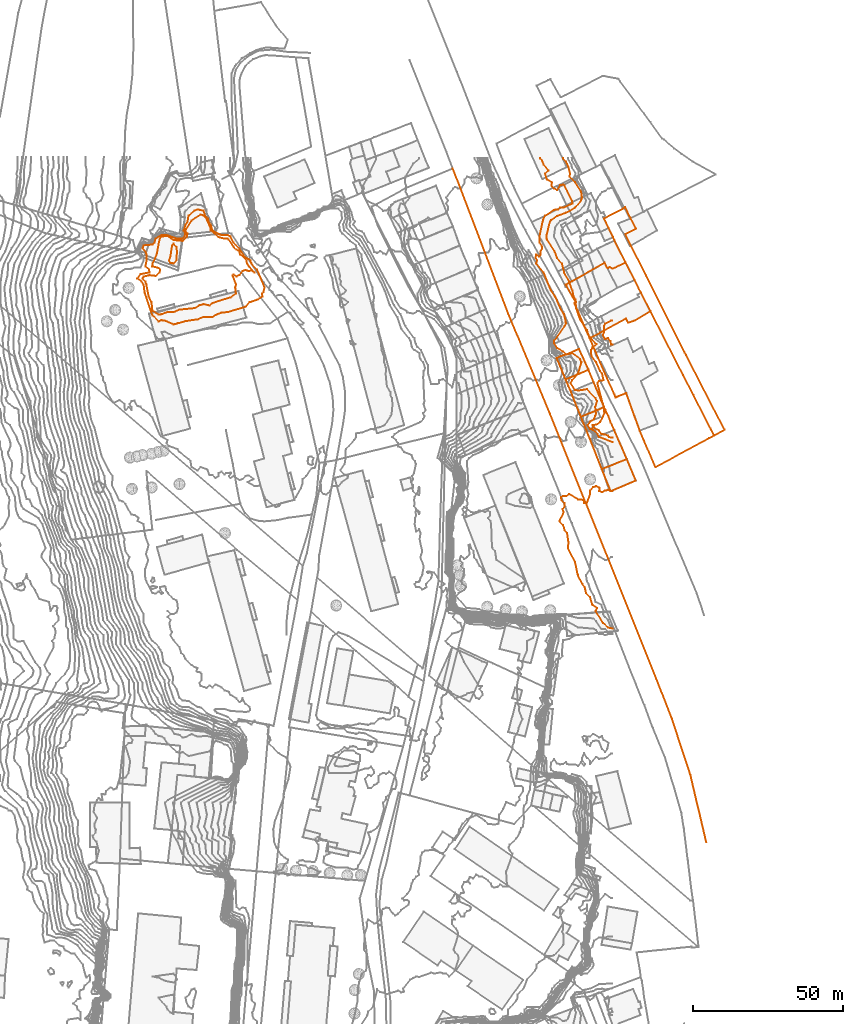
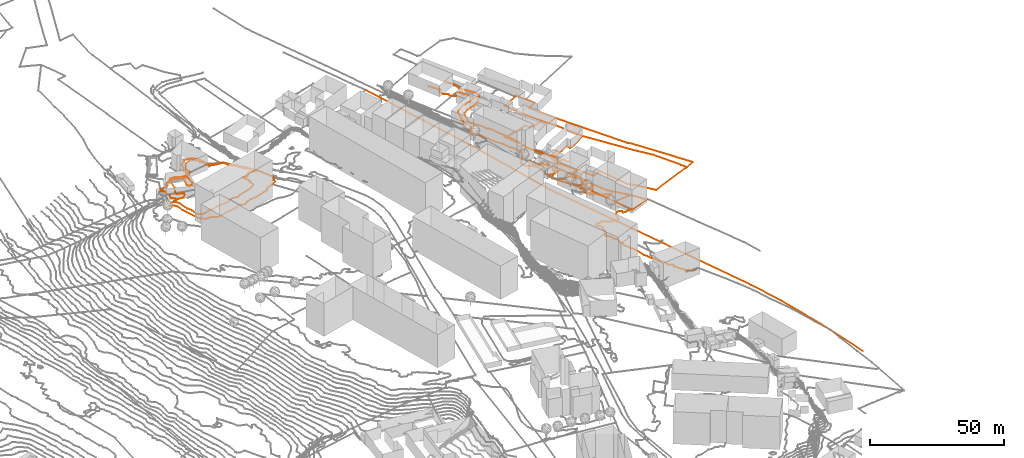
# Not in any storey, part 384 of 419: 15 proxies.
"""IFC2X3 model written with IfcOpenShell, lengths in metres."""

from ifc_helpers import new_model, entity, si_unit, frame, origin_with_axes, place, context, subcontext, project, element, save


model = new_model("IFC2X3")

# Units and contexts
model_context = context("Model", 3, precision=1e-05, world=origin_with_axes())
body_context = subcontext(model_context, "Body", "Model", "MODEL_VIEW")
ifc_project = project(units=[si_unit("AREAUNIT", "SQUARE_METRE"), si_unit("LENGTHUNIT", "METRE")], contexts=[model_context])

# Proxies
proxy_1_placement = place(None, frame((923.2920204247, 1028.5976909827, 93.5), z_axis=(0.0, 0.0, 1.0), x_axis=(1.0, 0.0, 0.0)))
element("IfcBuildingElementProxy", 1, at=proxy_1_placement, Name="Route 215", ObjectType="NOTDEFINED", context=body_context, shape_type="GeometricCurveSet", body=[
    entity("IfcGeometricCurveSet", [entity("IfcPolyline", [entity("IfcCartesianPoint", [84.6000000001, -225.0, -12.2]), entity("IfcCartesianPoint", [79.3, -202.4000000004, -11.5]), entity("IfcCartesianPoint", [73.1000000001, -183.6000000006, -10.2]), entity("IfcCartesianPoint", [67.9, -170.2000000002, -9.3]), entity("IfcCartesianPoint", [32.4, -81.7999999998, -7.2]), entity("IfcCartesianPoint", [18.5, -48.4000000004, -2.9]), entity("IfcCartesianPoint", [0.0, 0.0, 0.0])])]),
])
proxy_2_placement = place(None, frame((966.0220204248, 945.7376909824, 85.1915095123), z_axis=(0.0, 0.0, 1.0), x_axis=(1.0, 0.0, 0.0)))
element("IfcBuildingElementProxy", 2, at=proxy_2_placement, Name="Cadastre 216", ObjectType="NOTDEFINED", context=body_context, shape_type="GeometricCurveSet", body=[
    entity("IfcGeometricCurveSet", [entity("IfcPolyline", [entity("IfcCartesianPoint", [0.0, 0.0, 0.0]), entity("IfcCartesianPoint", [5.5699999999, 2.1800000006, -2.5723105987]), entity("IfcCartesianPoint", [7.72, 3.2400000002, -3.3080676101]), entity("IfcCartesianPoint", [8.21, 2.2300000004, -3.3728630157]), entity("IfcCartesianPoint", [9.26, 0.0, -3.3658886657]), entity("IfcCartesianPoint", [9.97, -1.8899999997, -3.3615076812]), entity("IfcCartesianPoint", [11.12, -4.4299999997, -3.3106120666]), entity("IfcCartesianPoint", [15.3199999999, -14.1799999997, -0.9787113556]), entity("IfcCartesianPoint", [7.0, -17.4399999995, 0.9192987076]), entity("IfcCartesianPoint", [3.0399999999, -7.5499999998, 1.1341150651]), entity("IfcCartesianPoint", [1.9099999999, -4.5599999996, 1.3429384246]), entity("IfcCartesianPoint", [0.96, -2.3399999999, -0.233708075]), entity("IfcCartesianPoint", [0.0, 0.0, 0.0])])]),
])
proxy_3_placement = place(None, frame((960.9620204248, 958.1776909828, 84.4061030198), z_axis=(0.0, 0.0, 1.0), x_axis=(1.0, 0.0, 0.0)))
element("IfcBuildingElementProxy", 3, at=proxy_3_placement, Name="Cadastre 217", ObjectType="NOTDEFINED", context=body_context, shape_type="GeometricCurveSet", body=[
    entity("IfcGeometricCurveSet", [entity("IfcPolyline", [entity("IfcCartesianPoint", [0.0, 0.0, 0.0]), entity("IfcCartesianPoint", [4.3200000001, 1.7800000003, -2.0234875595]), entity("IfcCartesianPoint", [7.59, 3.2400000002, -2.2358246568]), entity("IfcCartesianPoint", [9.3100000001, -0.9199999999, -2.3144393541]), entity("IfcCartesianPoint", [12.78, -9.2000000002, -2.5226611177]), entity("IfcCartesianPoint", [10.63, -10.2599999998, -1.7869041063]), entity("IfcCartesianPoint", [5.0600000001, -12.4400000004, 0.7854064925]), entity("IfcCartesianPoint", [1.7100000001, -4.0800000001, -0.2434632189]), entity("IfcCartesianPoint", [0.0, 0.0, 0.0])])]),
])
proxy_4_placement = place(None, frame((957.9820204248, 965.2876909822, 87.2904030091), z_axis=(0.0, 0.0, 1.0), x_axis=(1.0, 0.0, 0.0)))
element("IfcBuildingElementProxy", 4, at=proxy_4_placement, Name="Cadastre 218", ObjectType="NOTDEFINED", context=body_context, shape_type="GeometricCurveSet", body=[
    entity("IfcGeometricCurveSet", [entity("IfcPolyline", [entity("IfcCartesianPoint", [0.0, 0.0, 0.0]), entity("IfcCartesianPoint", [1.3199999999, 0.6200000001, -2.0114830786]), entity("IfcCartesianPoint", [4.37, 1.7000000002, -4.021207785]), entity("IfcCartesianPoint", [7.4400000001, 3.0800000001, -4.9458076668]), entity("IfcCartesianPoint", [10.5699999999, -3.8699999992, -5.1201246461]), entity("IfcCartesianPoint", [7.3, -5.3299999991, -4.9077875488]), entity("IfcCartesianPoint", [2.98, -7.1099999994, -2.8842999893]), entity("IfcCartesianPoint", [0.0, 0.0, 0.0])])]),
])
proxy_5_placement = place(None, frame((960.8920204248, 989.8076909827, 82.4106987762), z_axis=(0.0, 0.0, 1.0), x_axis=(1.0, 0.0, 0.0)))
element("IfcBuildingElementProxy", 5, at=proxy_5_placement, Name="Cadastre 221", ObjectType="NOTDEFINED", context=body_context, shape_type="GeometricCurveSet", body=[
    entity("IfcGeometricCurveSet", [entity("IfcPolyline", [entity("IfcCartesianPoint", [28.33, -8.8399999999, -4.0308960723]), entity("IfcCartesianPoint", [23.02, -12.0200000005, -4.4882997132]), entity("IfcCartesianPoint", [20.9299999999, -12.7400000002, -4.6034993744]), entity("IfcCartesianPoint", [20.24, -11.2800000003, -4.3738014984]), entity("IfcCartesianPoint", [11.61, -16.0300000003, -3.9011919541]), entity("IfcCartesianPoint", [8.09, -17.9100000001, -0.4337501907]), entity("IfcCartesianPoint", [6.22, -13.5999999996, -0.4715315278]), entity("IfcCartesianPoint", [4.08, -8.7300000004, -0.9011527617]), entity("IfcCartesianPoint", [2.96, -6.1399999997, -0.4580093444]), entity("IfcCartesianPoint", [3.45, -5.8799999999, -0.8406753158]), entity("IfcCartesianPoint", [0.4, -0.5200000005, -0.0590804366]), entity("IfcCartesianPoint", [0.0, 0.0, 0.0]), entity("IfcCartesianPoint", [2.15, 1.1100000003, -0.8434570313]), entity("IfcCartesianPoint", [13.0599999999, 7.29, -3.7371000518]), entity("IfcCartesianPoint", [14.0, 5.4500000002, -3.7948980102]), entity("IfcCartesianPoint", [14.75, 5.7999999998, -3.8627961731]), entity("IfcCartesianPoint", [15.6599999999, 5.3099999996, -3.8550966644]), entity("IfcCartesianPoint", [20.0399999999, 7.3300000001, -3.8855010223]), entity("IfcCartesianPoint", [23.1, 1.5199999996, -3.7807015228]), entity("IfcCartesianPoint", [25.1799999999, -2.7199999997, -3.8786000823]), entity("IfcCartesianPoint", [28.33, -8.8399999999, -4.0308960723])])]),
])
proxy_6_placement = place(None, frame((973.7320204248, 1011.9076909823, 78.7609409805), z_axis=(0.0, 0.0, 1.0), x_axis=(1.0, 0.0, 0.0)))
element("IfcBuildingElementProxy", 6, at=proxy_6_placement, Name="Cadastre 223", ObjectType="NOTDEFINED", context=body_context, shape_type="GeometricCurveSet", body=[
    entity("IfcGeometricCurveSet", [entity("IfcPolyline", [entity("IfcCartesianPoint", [27.4, -45.6099999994, 1.113055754]), entity("IfcCartesianPoint", [40.24, -70.54, 3.119356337]), entity("IfcCartesianPoint", [36.77, -72.4699999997, 3.1194563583]), entity("IfcCartesianPoint", [35.5699999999, -70.0800000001, 3.1018558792]), entity("IfcCartesianPoint", [29.85, -58.9799999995, 3.0066596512]), entity("IfcCartesianPoint", [26.41, -52.2599999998, 1.9565558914]), entity("IfcCartesianPoint", [15.49, -30.9399999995, -0.3811382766]), entity("IfcCartesianPoint", [12.34, -24.8199999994, -0.2288422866]), entity("IfcCartesianPoint", [10.26, -20.5800000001, -0.1309437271]), entity("IfcCartesianPoint", [7.2, -14.7699999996, -0.2357432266]), entity("IfcCartesianPoint", [3.53, -7.4299999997, -0.3149436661]), entity("IfcCartesianPoint", [3.02, -6.2699999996, -0.36574048]), entity("IfcCartesianPoint", [1.55, -3.1799999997, -0.2744698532]), entity("IfcCartesianPoint", [0.0, 0.0, 0.0]), entity("IfcCartesianPoint", [6.3199999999, 3.2600000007, -0.0409397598]), entity("IfcCartesianPoint", [7.11, 3.7800000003, -0.0322401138]), entity("IfcCartesianPoint", [8.87, 0.0300000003, -0.1439429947]), entity("IfcCartesianPoint", [10.71, -3.4799999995, -0.3209385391]), entity("IfcCartesianPoint", [7.12, -5.25, -0.3705434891]), entity("IfcCartesianPoint", [14.09, -19.0999999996, -0.1591421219]), entity("IfcCartesianPoint", [26.97, -44.7199999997, 0.7551584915]), entity("IfcCartesianPoint", [27.4, -45.6099999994, 1.113055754])])]),
])
proxy_7_placement = place(None, frame((968.9820204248, 971.8976909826, 81.9769485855), z_axis=(0.0, 0.0, 1.0), x_axis=(1.0, 0.0, 0.0)))
element("IfcBuildingElementProxy", 7, at=proxy_7_placement, Name="Cadastre 224", ObjectType="NOTDEFINED", context=body_context, shape_type="GeometricCurveSet", body=[
    entity("IfcGeometricCurveSet", [entity("IfcPolyline", [entity("IfcCartesianPoint", [41.52, -32.46, -0.0965512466]), entity("IfcCartesianPoint", [39.8199999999, -33.3399999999, 0.4406481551]), entity("IfcCartesianPoint", [21.92, -42.9799999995, 2.7586520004]), entity("IfcCartesianPoint", [18.08, -34.0899999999, 0.9619520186]), entity("IfcCartesianPoint", [16.6900000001, -30.8300000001, -0.0936506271]), entity("IfcCartesianPoint", [12.1800000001, -18.3200000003, -0.2415454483]), entity("IfcCartesianPoint", [11.85, -18.4399999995, -0.2451453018]), entity("IfcCartesianPoint", [9.36, -19.4100000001, -0.174150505]), entity("IfcCartesianPoint", [8.61, -19.7199999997, -0.1691498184]), entity("IfcCartesianPoint", [8.25, -18.8300000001, -0.220547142]), entity("IfcCartesianPoint", [2.05, -4.7999999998, -1.4141483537]), entity("IfcCartesianPoint", [0.0, 0.0, 0.0]), entity("IfcCartesianPoint", [3.52, 1.8799999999, -3.4674417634]), entity("IfcCartesianPoint", [12.15, 6.6299999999, -3.9400513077]), entity("IfcCartesianPoint", [12.84, 5.1699999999, -4.1697491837]), entity("IfcCartesianPoint", [14.9300000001, 5.8899999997, -4.0545495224]), entity("IfcCartesianPoint", [20.24, 9.0700000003, -3.5971458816]), entity("IfcCartesianPoint", [31.16, -12.25, -1.2594517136]), entity("IfcCartesianPoint", [34.6, -18.9699999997, -0.2093479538]), entity("IfcCartesianPoint", [40.3199999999, -30.0700000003, -0.1141517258]), entity("IfcCartesianPoint", [41.52, -32.46, -0.0965512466])])]),
])
proxy_8_placement = place(None, frame((973.0220204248, 928.2976909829, 86.1108082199), z_axis=(0.0, 0.0, 1.0), x_axis=(1.0, 0.0, 0.0)))
element("IfcBuildingElementProxy", 8, at=proxy_8_placement, Name="Cadastre 225", ObjectType="NOTDEFINED", context=body_context, shape_type="GeometricCurveSet", body=[
    entity("IfcGeometricCurveSet", [entity("IfcPolyline", [entity("IfcCartesianPoint", [0.0, 0.0, 0.0]), entity("IfcCartesianPoint", [8.3199999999, 3.2599999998, -1.8980100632]), entity("IfcCartesianPoint", [11.33, -3.8399999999, -0.7504056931]), entity("IfcCartesianPoint", [2.97, -7.4500000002, -0.1328087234]), entity("IfcCartesianPoint", [0.0, 0.0, 0.0])])]),
])
proxy_9_placement = place(None, frame((828.5682057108, 997.8976909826, 102.0), z_axis=(0.0, 0.0, 1.0), x_axis=(1.0, 0.0, 0.0)))
element("IfcBuildingElementProxy", 9, at=proxy_9_placement, Name="Contour 102.0 m", ObjectType="NOTDEFINED", context=body_context, shape_type="GeometricCurveSet", body=[
    entity("IfcGeometricCurveSet", [entity("IfcPolyline", [entity("IfcCartesianPoint", [1.6190372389, -1.0, 0.0]), entity("IfcCartesianPoint", [0.5238147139, -0.9166507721, 0.0]), entity("IfcCartesianPoint", [0.0, 0.0, 0.0]), entity("IfcCartesianPoint", [0.420370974, 1.0, 0.0]), entity("IfcCartesianPoint", [1.0952588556, 5.0, 0.0]), entity("IfcCartesianPoint", [1.5238147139, 5.5999999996, 0.0]), entity("IfcCartesianPoint", [2.5238147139, 4.4166825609, 0.0]), entity("IfcCartesianPoint", [2.6977320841, 3.0, 0.0]), entity("IfcCartesianPoint", [2.5238147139, 0.142833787, 0.0]), entity("IfcCartesianPoint", [1.6190372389, -1.0, 0.0])])]),
])
proxy_10_placement = place(None, frame((819.7523964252, 991.8976909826, 101.0), z_axis=(0.0, 0.0, 1.0), x_axis=(1.0, 0.0, 0.0)))
element("IfcBuildingElementProxy", 10, at=proxy_10_placement, Name="Contour 101.0 m", ObjectType="NOTDEFINED", context=body_context, shape_type="GeometricCurveSet", body=[
    entity("IfcGeometricCurveSet", [entity("IfcPolyline", [entity("IfcCartesianPoint", [6.3850880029, -12.0, 0.0]), entity("IfcCartesianPoint", [5.3396239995, -12.0909106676, 0.0]), entity("IfcCartesianPoint", [3.3396239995, -10.8648576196, 0.0]), entity("IfcCartesianPoint", [3.0062934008, -8.0, 0.0]), entity("IfcCartesianPoint", [2.0676269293, -6.0, 0.0]), entity("IfcCartesianPoint", [1.2754038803, -2.0, 0.0]), entity("IfcCartesianPoint", [0.9396199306, -1.0, 0.0]), entity("IfcCartesianPoint", [0.0, 0.0, 0.0]), entity("IfcCartesianPoint", [0.3396239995, 0.5999949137, 0.0]), entity("IfcCartesianPoint", [2.3396239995, 1.0291250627, 0.0]), entity("IfcCartesianPoint", [4.3396239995, 0.80768215, 0.0]), entity("IfcCartesianPoint", [5.708038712, 2.0, 0.0]), entity("IfcCartesianPoint", [5.8729641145, 3.0, 0.0]), entity("IfcCartesianPoint", [5.3396239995, 3.4444538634, 0.0]), entity("IfcCartesianPoint", [3.2611911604, 4.0, 0.0]), entity("IfcCartesianPoint", [3.3396239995, 5.0000111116, 0.0]), entity("IfcCartesianPoint", [4.7285105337, 8.0, 0.0]), entity("IfcCartesianPoint", [5.6896278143, 13.0, 0.0]), entity("IfcCartesianPoint", [6.2748784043, 14.0, 0.0]), entity("IfcCartesianPoint", [8.3396239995, 14.0540541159, 0.0]), entity("IfcCartesianPoint", [10.3396239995, 12.7401569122, 0.0]), entity("IfcCartesianPoint", [13.3396239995, 12.5000008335, 0.0]), entity("IfcCartesianPoint", [14.8349501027, 14.0, 0.0]), entity("IfcCartesianPoint", [14.959624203, 15.0, 0.0]), entity("IfcCartesianPoint", [14.2443872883, 16.0, 0.0]), entity("IfcCartesianPoint", [16.3396239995, 19.333333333, 0.0]), entity("IfcCartesianPoint", [19.3396239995, 21.2539720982, 0.0]), entity("IfcCartesianPoint", [20.3396239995, 20.9841237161, 0.0]), entity("IfcCartesianPoint", [21.3396239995, 19.949154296, 0.0]), entity("IfcCartesianPoint", [22.6283941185, 17.0, 0.0]), entity("IfcCartesianPoint", [22.6893176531, 16.0, 0.0]), entity("IfcCartesianPoint", [25.3396239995, 13.7169776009, 0.0]), entity("IfcCartesianPoint", [27.3396239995, 13.2068962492, 0.0]), entity("IfcCartesianPoint", [28.3396239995, 13.278482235, 0.0]), entity("IfcCartesianPoint", [28.7709971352, 13.0, 0.0]), entity("IfcCartesianPoint", [30.3396239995, 10.6231866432, 0.0]), entity("IfcCartesianPoint", [31.3396239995, 9.5277836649, 0.0]), entity("IfcCartesianPoint", [32.3396239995, 9.0901643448, 0.0]), entity("IfcCartesianPoint", [32.5455053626, 8.0, 0.0]), entity("IfcCartesianPoint", [34.6439660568, 6.0, 0.0]), entity("IfcCartesianPoint", [34.885053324, 5.0, 0.0]), entity("IfcCartesianPoint", [35.5301053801, 4.0, 0.0]), entity("IfcCartesianPoint", [37.3396239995, 1.9999947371, 0.0]), entity("IfcCartesianPoint", [36.3396239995, 2.5714441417, 0.0]), entity("IfcCartesianPoint", [35.3396239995, 2.4285558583, 0.0]), entity("IfcCartesianPoint", [34.3396239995, 2.7499523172, 0.0]), entity("IfcCartesianPoint", [33.3396239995, 2.4999500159, 0.0]), entity("IfcCartesianPoint", [32.3396239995, 1.1666878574, 0.0]), entity("IfcCartesianPoint", [31.3396239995, 0.6667090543, 0.0]), entity("IfcCartesianPoint", [30.3396239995, 1.1999694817, 0.0]), entity("IfcCartesianPoint", [30.0539564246, 1.0, 0.0]), entity("IfcCartesianPoint", [31.2146001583, -2.0, 0.0]), entity("IfcCartesianPoint", [30.9396087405, -3.0, 0.0]), entity("IfcCartesianPoint", [31.1858004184, -5.0, 0.0]), entity("IfcCartesianPoint", [29.3396239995, -6.3333192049, 0.0]), entity("IfcCartesianPoint", [23.3396239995, -8.2272853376, 0.0]), entity("IfcCartesianPoint", [22.3396239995, -9.0384694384, 0.0]), entity("IfcCartesianPoint", [20.3396239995, -8.6250119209, 0.0]), entity("IfcCartesianPoint", [19.039631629, -9.0, 0.0]), entity("IfcCartesianPoint", [17.3396239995, -9.9565130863, 0.0]), entity("IfcCartesianPoint", [12.3396239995, -10.434784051, 0.0]), entity("IfcCartesianPoint", [10.3396239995, -11.2608637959, 0.0]), entity("IfcCartesianPoint", [8.3396239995, -11.2105284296, 0.0]), entity("IfcCartesianPoint", [6.3850880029, -12.0, 0.0])])]),
])
proxy_11_placement = place(None, frame((818.008682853, 991.8976909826, 100.0), z_axis=(0.0, 0.0, 1.0), x_axis=(1.0, 0.0, 0.0)))
element("IfcBuildingElementProxy", 11, at=proxy_11_placement, Name="Contour 100.0 m", ObjectType="NOTDEFINED", context=body_context, shape_type="GeometricCurveSet", body=[
    entity("IfcGeometricCurveSet", [entity("IfcPolyline", [entity("IfcCartesianPoint", [13.638902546, -15.0, 0.0]), entity("IfcCartesianPoint", [12.0833375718, -15.3599853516, 0.0]), entity("IfcCartesianPoint", [9.0833375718, -14.1111079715, 0.0]), entity("IfcCartesianPoint", [8.0833375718, -14.0000027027, 0.0]), entity("IfcCartesianPoint", [7.0833375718, -14.3409106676, 0.0]), entity("IfcCartesianPoint", [5.0833375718, -12.3764709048, 0.0]), entity("IfcCartesianPoint", [2.5184526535, -5.0, 0.0]), entity("IfcCartesianPoint", [2.1016831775, -2.0, 0.0]), entity("IfcCartesianPoint", [1.4043258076, -1.0, 0.0]), entity("IfcCartesianPoint", [0.0, 0.0, 0.0]), entity("IfcCartesianPoint", [1.0833375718, 1.3902436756, 0.0]), entity("IfcCartesianPoint", [4.0833264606, 2.0, 0.0]), entity("IfcCartesianPoint", [3.950002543, 3.0, 0.0]), entity("IfcCartesianPoint", [2.6962411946, 4.0, 0.0]), entity("IfcCartesianPoint", [3.1123184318, 6.0, 0.0]), entity("IfcCartesianPoint", [3.1203688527, 8.0, 0.0]), entity("IfcCartesianPoint", [2.7284984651, 9.0, 0.0]), entity("IfcCartesianPoint", [1.7944528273, 10.0, 0.0]), entity("IfcCartesianPoint", [2.1309669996, 11.0, 0.0]), entity("IfcCartesianPoint", [5.0833375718, 11.2663757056, 0.0]), entity("IfcCartesianPoint", [5.7662647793, 12.0, 0.0]), entity("IfcCartesianPoint", [6.0833375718, 13.2475879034, 0.0]), entity("IfcCartesianPoint", [8.0833375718, 14.459915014, 0.0]), entity("IfcCartesianPoint", [10.0833375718, 14.3543542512, 0.0]), entity("IfcCartesianPoint", [13.0833375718, 13.238094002, 0.0]), entity("IfcCartesianPoint", [15.0833375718, 13.2816915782, 0.0]), entity("IfcCartesianPoint", [15.7679000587, 14.0, 0.0]), entity("IfcCartesianPoint", [16.0333378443, 15.0, 0.0]), entity("IfcCartesianPoint", [15.5119100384, 16.0, 0.0]), entity("IfcCartesianPoint", [16.0833375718, 17.864404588, 0.0]), entity("IfcCartesianPoint", [16.766506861, 19.0, 0.0]), entity("IfcCartesianPoint", [17.0833375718, 20.9090951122, 0.0]), entity("IfcCartesianPoint", [19.0833375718, 22.6052642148, 0.0]), entity("IfcCartesianPoint", [20.0833375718, 22.9807652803, 0.0]), entity("IfcCartesianPoint", [22.0833375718, 22.5507247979, 0.0]), entity("IfcCartesianPoint", [22.6797232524, 21.0, 0.0]), entity("IfcCartesianPoint", [23.5611709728, 20.0, 0.0]), entity("IfcCartesianPoint", [23.7924283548, 19.0, 0.0]), entity("IfcCartesianPoint", [24.4962733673, 18.0, 0.0]), entity("IfcCartesianPoint", [25.0833375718, 15.9634161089, 0.0]), entity("IfcCartesianPoint", [27.0833375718, 14.7657639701, 0.0]), entity("IfcCartesianPoint", [28.0833375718, 14.4653467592, 0.0]), entity("IfcCartesianPoint", [30.0833375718, 14.4257419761, 0.0]), entity("IfcCartesianPoint", [31.0833375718, 13.9594609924, 0.0]), entity("IfcCartesianPoint", [32.1178191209, 12.0, 0.0]), entity("IfcCartesianPoint", [34.0833375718, 9.9098356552, 0.0]), entity("IfcCartesianPoint", [36.0491487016, 7.0, 0.0]), entity("IfcCartesianPoint", [37.7294908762, 6.0, 0.0]), entity("IfcCartesianPoint", [38.0833375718, 4.8800048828, 0.0]), entity("IfcCartesianPoint", [39.9387562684, 3.0, 0.0]), entity("IfcCartesianPoint", [42.518819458, -3.0, 0.0]), entity("IfcCartesianPoint", [42.0833375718, -4.5714441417, 0.0]), entity("IfcCartesianPoint", [41.5833431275, -5.0, 0.0]), entity("IfcCartesianPoint", [41.7976699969, -6.0, 0.0]), entity("IfcCartesianPoint", [40.0833375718, -7.1000228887, 0.0]), entity("IfcCartesianPoint", [37.4166285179, -8.0, 0.0]), entity("IfcCartesianPoint", [36.0833375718, -9.5000083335, 0.0]), entity("IfcCartesianPoint", [30.0833375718, -11.2727146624, 0.0]), entity("IfcCartesianPoint", [28.0833375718, -11.4782565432, 0.0]), entity("IfcCartesianPoint", [26.0833375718, -12.2000000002, 0.0]), entity("IfcCartesianPoint", [25.0833375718, -13.0000038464, 0.0]), entity("IfcCartesianPoint", [22.0833375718, -12.875003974, 0.0]), entity("IfcCartesianPoint", [20.0833375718, -13.6799926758, 0.0]), entity("IfcCartesianPoint", [16.0833375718, -14.2799987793, 0.0]), entity("IfcCartesianPoint", [13.638902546, -15.0, 0.0])])]),
])
proxy_12_placement = place(None, frame((973.3847008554, 972.8976909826, 78.0), z_axis=(0.0, 0.0, 1.0), x_axis=(1.0, 0.0, 0.0)))
element("IfcBuildingElementProxy", 12, at=proxy_12_placement, Name="Contour 78.0 m", ObjectType="NOTDEFINED", context=body_context, shape_type="GeometricCurveSet", body=[
    entity("IfcGeometricCurveSet", [entity("IfcPolyline", [entity("IfcCartesianPoint", [3.2073195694, 4.8750178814, 0.0]), entity("IfcCartesianPoint", [2.7073195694, 4.8750178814, 0.0]), entity("IfcCartesianPoint", [0.7073195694, 3.8695681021, 0.0]), entity("IfcCartesianPoint", [0.3299659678, 3.0, 0.0]), entity("IfcCartesianPoint", [0.2932576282, 1.0, 0.0]), entity("IfcCartesianPoint", [0.0, 0.0, 0.0]), entity("IfcCartesianPoint", [0.7073195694, -1.2048175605, 0.0]), entity("IfcCartesianPoint", [1.7073195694, -0.9682591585, 0.0]), entity("IfcCartesianPoint", [2.5433867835, -2.0, 0.0]), entity("IfcCartesianPoint", [2.7073195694, -3.1111134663, 0.0]), entity("IfcCartesianPoint", [3.2073195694, -3.1111134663, 0.0])])]),
])
proxy_13_placement = place(None, frame((954.5066541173, 1005.8976909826, 82.0), z_axis=(0.0, 0.0, 1.0), x_axis=(1.0, 0.0, 0.0)))
element("IfcBuildingElementProxy", 13, at=proxy_13_placement, Name="Contour 82.0 m", ObjectType="NOTDEFINED", context=body_context, shape_type="GeometricCurveSet", body=[
    entity("IfcGeometricCurveSet", [entity("IfcPolyline", [entity("IfcCartesianPoint", [5.5853684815, 26.5, 0.0]), entity("IfcCartesianPoint", [5.5853684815, 26.0, 0.0]), entity("IfcCartesianPoint", [6.5853663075, 25.0000021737, 0.0]), entity("IfcCartesianPoint", [7.4187067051, 23.0, 0.0]), entity("IfcCartesianPoint", [7.9096956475, 21.0, 0.0]), entity("IfcCartesianPoint", [7.7392147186, 20.0, 0.0]), entity("IfcCartesianPoint", [9.5853663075, 18.1071450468, 0.0]), entity("IfcCartesianPoint", [11.5853663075, 15.0238142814, 0.0]), entity("IfcCartesianPoint", [11.8605974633, 13.0, 0.0]), entity("IfcCartesianPoint", [11.5853683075, 12.0, 0.0]), entity("IfcCartesianPoint", [9.5853663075, 9.5490149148, 0.0]), entity("IfcCartesianPoint", [6.5853663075, 7.8800048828, 0.0]), entity("IfcCartesianPoint", [3.5853663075, 6.833340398, 0.0]), entity("IfcCartesianPoint", [1.5853663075, 5.4374985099, 0.0]), entity("IfcCartesianPoint", [1.2263929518, 5.0, 0.0]), entity("IfcCartesianPoint", [0.1990022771, 1.0, 0.0]), entity("IfcCartesianPoint", [0.0, 0.0, 0.0]), entity("IfcCartesianPoint", [0.1751078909, -1.0, 0.0]), entity("IfcCartesianPoint", [2.8103605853, -5.0, 0.0]), entity("IfcCartesianPoint", [3.5853663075, -7.2399902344, 0.0]), entity("IfcCartesianPoint", [5.1611280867, -9.0, 0.0]), entity("IfcCartesianPoint", [5.985360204, -12.0, 0.0]), entity("IfcCartesianPoint", [7.5853663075, -15.1538235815, 0.0]), entity("IfcCartesianPoint", [8.6735989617, -18.0, 0.0]), entity("IfcCartesianPoint", [9.1147771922, -20.0, 0.0]), entity("IfcCartesianPoint", [9.6704744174, -21.0, 0.0]), entity("IfcCartesianPoint", [9.954412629, -24.0, 0.0]), entity("IfcCartesianPoint", [11.400184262, -28.0, 0.0]), entity("IfcCartesianPoint", [13.5853663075, -31.2105284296, 0.0]), entity("IfcCartesianPoint", [14.0697379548, -33.0, 0.0]), entity("IfcCartesianPoint", [16.7324323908, -36.0, 0.0]), entity("IfcCartesianPoint", [15.4067880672, -37.0, 0.0]), entity("IfcCartesianPoint", [14.8616801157, -38.0, 0.0]), entity("IfcCartesianPoint", [14.8883938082, -39.0, 0.0]), entity("IfcCartesianPoint", [15.1611280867, -40.0, 0.0]), entity("IfcCartesianPoint", [16.6181480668, -42.0, 0.0]), entity("IfcCartesianPoint", [17.9853663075, -45.0, 0.0]), entity("IfcCartesianPoint", [18.5853663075, -45.6922941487, 0.0]), entity("IfcCartesianPoint", [19.0854162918, -48.0, 0.0]), entity("IfcCartesianPoint", [17.5853663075, -48.2000305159, 0.0]), entity("IfcCartesianPoint", [17.0139221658, -49.0, 0.0]), entity("IfcCartesianPoint", [19.2007599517, -57.0, 0.0]), entity("IfcCartesianPoint", [19.3784788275, -59.0, 0.0]), entity("IfcCartesianPoint", [17.9382969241, -62.0, 0.0]), entity("IfcCartesianPoint", [16.5853663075, -62.8333306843, 0.0]), entity("IfcCartesianPoint", [15.4114489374, -63.0, 0.0]), entity("IfcCartesianPoint", [15.5853663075, -63.8000305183, 0.0]), entity("IfcCartesianPoint", [17.5853663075, -64.7500238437, 0.0]), entity("IfcCartesianPoint", [18.3902416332, -66.0, 0.0]), entity("IfcCartesianPoint", [19.5853663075, -66.1136426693, 0.0]), entity("IfcCartesianPoint", [20.5853663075, -66.5333401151, 0.0]), entity("IfcCartesianPoint", [20.95378102, -67.0, 0.0]), entity("IfcCartesianPoint", [22.0853663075, -67.1875044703, 0.0])])]),
])
proxy_14_placement = place(None, frame((950.8920509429, 998.8976909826, 83.0), z_axis=(0.0, 0.0, 1.0), x_axis=(1.0, 0.0, 0.0)))
element("IfcBuildingElementProxy", 14, at=proxy_14_placement, Name="Contour 83.0 m", ObjectType="NOTDEFINED", context=body_context, shape_type="GeometricCurveSet", body=[
    entity("IfcGeometricCurveSet", [entity("IfcPolyline", [entity("IfcCartesianPoint", [1.4499456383, 33.5, 0.0]), entity("IfcCartesianPoint", [1.4499456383, 33.0, 0.0]), entity("IfcCartesianPoint", [2.1999694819, 32.333333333, 0.0]), entity("IfcCartesianPoint", [2.7453988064, 31.0, 0.0]), entity("IfcCartesianPoint", [4.3110994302, 29.0, 0.0]), entity("IfcCartesianPoint", [3.2000028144, 28.0, 0.0]), entity("IfcCartesianPoint", [3.7714136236, 26.0, 0.0]), entity("IfcCartesianPoint", [5.4999618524, 25.0, 0.0]), entity("IfcCartesianPoint", [5.2908974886, 24.0, 0.0]), entity("IfcCartesianPoint", [6.1999694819, 23.0000099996, 0.0]), entity("IfcCartesianPoint", [7.1999694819, 22.39996948, 0.0]), entity("IfcCartesianPoint", [8.1999694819, 24.1428882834, 0.0]), entity("IfcCartesianPoint", [9.1999694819, 24.25, 0.0]), entity("IfcCartesianPoint", [9.6444045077, 24.0, 0.0]), entity("IfcCartesianPoint", [12.1999694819, 18.8000305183, 0.0]), entity("IfcCartesianPoint", [12.3481207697, 18.0, 0.0]), entity("IfcCartesianPoint", [9.1999694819, 16.5434793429, 0.0]), entity("IfcCartesianPoint", [8.1999694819, 16.5624910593, 0.0]), entity("IfcCartesianPoint", [7.5999694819, 16.0, 0.0]), entity("IfcCartesianPoint", [6.1999694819, 15.8529339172, 0.0]), entity("IfcCartesianPoint", [3.1999694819, 13.8695681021, 0.0]), entity("IfcCartesianPoint", [2.6117368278, 13.0, 0.0]), entity("IfcCartesianPoint", [1.2929948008, 7.0, 0.0]), entity("IfcCartesianPoint", [1.3211837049, 5.0, 0.0]), entity("IfcCartesianPoint", [2.0749456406, 4.0, 0.0]), entity("IfcCartesianPoint", [2.1999861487, 3.0, 0.0]), entity("IfcCartesianPoint", [1.5999389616, 2.0, 0.0]), entity("IfcCartesianPoint", [1.599984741, 1.0, 0.0]), entity("IfcCartesianPoint", [1.1999694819, 0.2000305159, 0.0]), entity("IfcCartesianPoint", [0.1999694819, 0.9999499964, 0.0]), entity("IfcCartesianPoint", [0.0, 0.0, 0.0]), entity("IfcCartesianPoint", [0.5333028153, -1.0, 0.0]), entity("IfcCartesianPoint", [0.1999861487, -2.0, 0.0]), entity("IfcCartesianPoint", [2.6999740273, -5.0, 0.0]), entity("IfcCartesianPoint", [5.1594304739, -11.0, 0.0]), entity("IfcCartesianPoint", [6.5408801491, -13.0, 0.0]), entity("IfcCartesianPoint", [8.1999694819, -16.8000050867, 0.0]), entity("IfcCartesianPoint", [9.5166369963, -19.0, 0.0]), entity("IfcCartesianPoint", [10.0218900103, -21.0, 0.0]), entity("IfcCartesianPoint", [10.1333050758, -22.0, 0.0]), entity("IfcCartesianPoint", [9.6852660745, -23.0, 0.0]), entity("IfcCartesianPoint", [6.1999694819, -27.8369545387, 0.0]), entity("IfcCartesianPoint", [6.1999694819, -28.5357220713, 0.0]), entity("IfcCartesianPoint", [7.1999694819, -30.306124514, 0.0]), entity("IfcCartesianPoint", [9.1999694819, -31.4526333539, 0.0]), entity("IfcCartesianPoint", [10.1999694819, -32.4235308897, 0.0]), entity("IfcCartesianPoint", [12.1999694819, -31.9555627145, 0.0]), entity("IfcCartesianPoint", [14.92913946, -34.0, 0.0]), entity("IfcCartesianPoint", [15.3249694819, -35.0, 0.0]), entity("IfcCartesianPoint", [14.0507176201, -39.0, 0.0]), entity("IfcCartesianPoint", [12.1999694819, -40.8999938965, 0.0]), entity("IfcCartesianPoint", [11.6950179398, -42.0, 0.0]), entity("IfcCartesianPoint", [13.1999694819, -44.2000038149, 0.0]), entity("IfcCartesianPoint", [14.1999694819, -44.4520552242, 0.0]), entity("IfcCartesianPoint", [17.1999694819, -43.9701541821, 0.0]), entity("IfcCartesianPoint", [20.0477959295, -47.0, 0.0]), entity("IfcCartesianPoint", [20.4962720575, -48.0, 0.0]), entity("IfcCartesianPoint", [19.9048873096, -50.0, 0.0]), entity("IfcCartesianPoint", [20.1999722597, -52.0, 0.0]), entity("IfcCartesianPoint", [19.9072824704, -53.0, 0.0]), entity("IfcCartesianPoint", [19.4682612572, -54.0, 0.0]), entity("IfcCartesianPoint", [18.1999694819, -54.7571444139, 0.0]), entity("IfcCartesianPoint", [17.3841786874, -56.0, 0.0]), entity("IfcCartesianPoint", [18.1999694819, -57.2281257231, 0.0]), entity("IfcCartesianPoint", [19.1999694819, -57.5697689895, 0.0]), entity("IfcCartesianPoint", [20.6885195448, -59.0, 0.0]), entity("IfcCartesianPoint", [21.1999694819, -59.9571444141, 0.0]), entity("IfcCartesianPoint", [25.6999694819, -61.6760546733, 0.0])])]),
])
proxy_15_placement = place(None, frame((958.8420204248, 910.8976909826, 86.0), z_axis=(0.0, 0.0, 1.0), x_axis=(1.0, 0.0, 0.0)))
element("IfcBuildingElementProxy", 15, at=proxy_15_placement, Name="Contour 86.0 m", ObjectType="NOTDEFINED", context=body_context, shape_type="GeometricCurveSet", body=[
    entity("IfcGeometricCurveSet", [entity("IfcPolyline", [entity("IfcCartesianPoint", [17.75, 9.9999750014, 0.0]), entity("IfcCartesianPoint", [16.25, 10.3332909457, 0.0]), entity("IfcCartesianPoint", [15.25, 10.2000305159, 0.0]), entity("IfcCartesianPoint", [14.25, 9.666666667, 0.0]), entity("IfcCartesianPoint", [13.2499875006, 10.0, 0.0]), entity("IfcCartesianPoint", [13.4500305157, 11.0, 0.0]), entity("IfcCartesianPoint", [13.25, 11.1428882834, 0.0]), entity("IfcCartesianPoint", [12.25, 11.6250238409, 0.0]), entity("IfcCartesianPoint", [11.25, 11.333333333, 0.0]), entity("IfcCartesianPoint", [10.25, 10.2500476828, 0.0]), entity("IfcCartesianPoint", [10.2500142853, 9.0, 0.0]), entity("IfcCartesianPoint", [9.25, 6.2000305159, 0.0]), entity("IfcCartesianPoint", [8.2500999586, 6.0, 0.0]), entity("IfcCartesianPoint", [8.2499000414, 7.0, 0.0]), entity("IfcCartesianPoint", [6.25, 7.2499761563, 0.0]), entity("IfcCartesianPoint", [3.25, 8.9999800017, 0.0]), entity("IfcCartesianPoint", [2.25, 8.333333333, 0.0]), entity("IfcCartesianPoint", [1.25, 8.3500038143, 0.0]), entity("IfcCartesianPoint", [0.5499923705, 8.0, 0.0]), entity("IfcCartesianPoint", [0.7500166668, 7.0, 0.0]), entity("IfcCartesianPoint", [1.6944350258, 6.0, 0.0]), entity("IfcCartesianPoint", [1.8214441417, 5.0, 0.0]), entity("IfcCartesianPoint", [1.0961764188, 4.0, 0.0]), entity("IfcCartesianPoint", [1.4721939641, 3.0, 0.0]), entity("IfcCartesianPoint", [0.0, 0.0, 0.0]), entity("IfcCartesianPoint", [1.25, -1.2727146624, 0.0]), entity("IfcCartesianPoint", [1.779395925, -3.0, 0.0]), entity("IfcCartesianPoint", [2.5892869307, -4.0, 0.0]), entity("IfcCartesianPoint", [3.0325986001, -7.0, 0.0]), entity("IfcCartesianPoint", [2.9021710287, -9.0, 0.0]), entity("IfcCartesianPoint", [5.25, -13.7058744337, 0.0]), entity("IfcCartesianPoint", [6.1666507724, -18.0, 0.0]), entity("IfcCartesianPoint", [7.6749938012, -21.0, 0.0]), entity("IfcCartesianPoint", [8.4631100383, -22.0, 0.0]), entity("IfcCartesianPoint", [8.9085347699, -24.0, 0.0]), entity("IfcCartesianPoint", [10.25, -25.358973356, 0.0]), entity("IfcCartesianPoint", [11.0357220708, -28.0, 0.0]), entity("IfcCartesianPoint", [12.5227320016, -29.0, 0.0]), entity("IfcCartesianPoint", [12.1323516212, -30.0, 0.0]), entity("IfcCartesianPoint", [14.5769216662, -34.0, 0.0]), entity("IfcCartesianPoint", [16.25, -35.5641065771, 0.0]), entity("IfcCartesianPoint", [17.75, -35.86666629, 0.0])])]),
])

save(model, "model.ifc")
